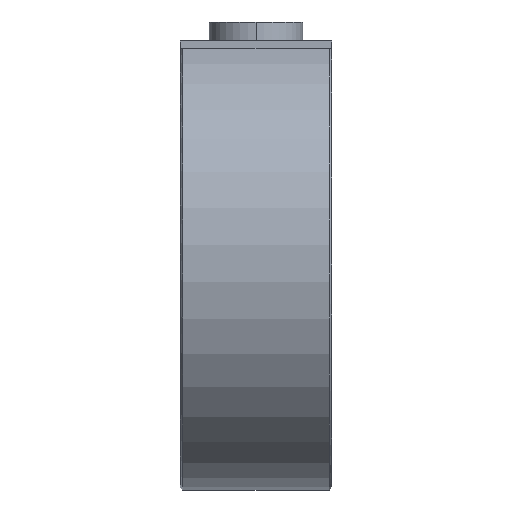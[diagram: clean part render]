
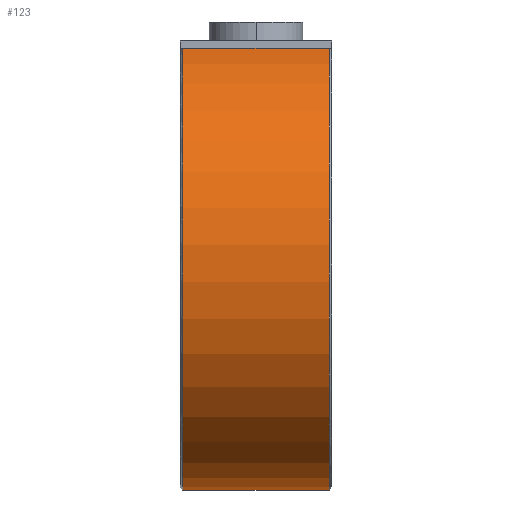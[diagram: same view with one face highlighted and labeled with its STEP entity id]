
A CAD part, left-side view. The second image highlights one B-rep face of the part: STEP entity #123.
In plain terms, the highlighted cylindrical face has radius 38.1 mm (diameter 76.2 mm), a partial arc.
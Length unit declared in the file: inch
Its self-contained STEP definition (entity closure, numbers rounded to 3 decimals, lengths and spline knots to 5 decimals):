
#13 = CARTESIAN_POINT ( 'NONE',  ( -0.49165, 0.985, 1.41714 ) ) ;
#18 = VERTEX_POINT ( 'NONE', #13 ) ;
#46 = VERTEX_POINT ( 'NONE', #644 ) ;
#55 = VERTEX_POINT ( 'NONE', #653 ) ;
#63 = VERTEX_POINT ( 'NONE', #651 ) ;
#78 = AXIS2_PLACEMENT_3D ( 'NONE', #576, #567, #575 ) ;
#80 = AXIS2_PLACEMENT_3D ( 'NONE', #588, #550, #565 ) ;
#123 = ADVANCED_FACE ( 'NONE', ( #378 ), #379, .T. ) ;
#193 = EDGE_LOOP ( 'NONE', ( #484, #477, #308, #289 ) ) ;
#248 = LINE ( 'NONE', #595, #259 ) ;
#259 = VECTOR ( 'NONE', #626, 39.37008 ) ;
#289 = ORIENTED_EDGE ( 'NONE', *, *, #1040, .T. ) ;
#308 = ORIENTED_EDGE ( 'NONE', *, *, #1015, .T. ) ;
#378 = FACE_OUTER_BOUND ( 'NONE', #193, .T. ) ;
#379 = CYLINDRICAL_SURFACE ( 'NONE', #877, 1.5 ) ;
#477 = ORIENTED_EDGE ( 'NONE', *, *, #1026, .T. ) ;
#484 = ORIENTED_EDGE ( 'NONE', *, *, #1018, .T. ) ;
#550 = DIRECTION ( 'NONE',  ( 0., -1., 0. ) ) ;
#565 = DIRECTION ( 'NONE',  ( 0., 0., 1. ) ) ;
#567 = DIRECTION ( 'NONE',  ( 0., 1., 0. ) ) ;
#575 = DIRECTION ( 'NONE',  ( 0., 0., 1. ) ) ;
#576 = CARTESIAN_POINT ( 'NONE',  ( 0., 0.015, 0. ) ) ;
#577 = CARTESIAN_POINT ( 'NONE',  ( 0., 1., -1.5 ) ) ;
#578 = DIRECTION ( 'NONE',  ( 0., -1., 0. ) ) ;
#588 = CARTESIAN_POINT ( 'NONE',  ( 0., 0.985, 0. ) ) ;
#595 = CARTESIAN_POINT ( 'NONE',  ( -0.49165, 0., 1.41714 ) ) ;
#626 = DIRECTION ( 'NONE',  ( 0., 1., 0. ) ) ;
#644 = CARTESIAN_POINT ( 'NONE',  ( -0.49165, 0.015, 1.41714 ) ) ;
#651 = CARTESIAN_POINT ( 'NONE',  ( 0., 0.985, -1.5 ) ) ;
#653 = CARTESIAN_POINT ( 'NONE',  ( 0., 0.015, -1.5 ) ) ;
#686 = CARTESIAN_POINT ( 'NONE',  ( 0., 1., 0. ) ) ;
#687 = DIRECTION ( 'NONE',  ( 0., 0., -1. ) ) ;
#714 = DIRECTION ( 'NONE',  ( 0., -1., 0. ) ) ;
#877 = AXIS2_PLACEMENT_3D ( 'NONE', #686, #714, #687 ) ;
#920 = CIRCLE ( 'NONE', #78, 1.5 ) ;
#936 = LINE ( 'NONE', #577, #937 ) ;
#937 = VECTOR ( 'NONE', #578, 39.37008 ) ;
#949 = CIRCLE ( 'NONE', #80, 1.5 ) ;
#1015 = EDGE_CURVE ( 'NONE', #55, #46, #920, .T. ) ;
#1018 = EDGE_CURVE ( 'NONE', #18, #63, #949, .T. ) ;
#1026 = EDGE_CURVE ( 'NONE', #63, #55, #936, .T. ) ;
#1040 = EDGE_CURVE ( 'NONE', #46, #18, #248, .T. ) ;
